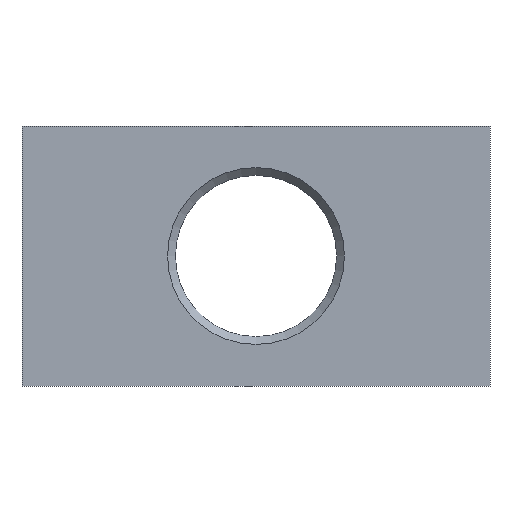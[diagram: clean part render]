
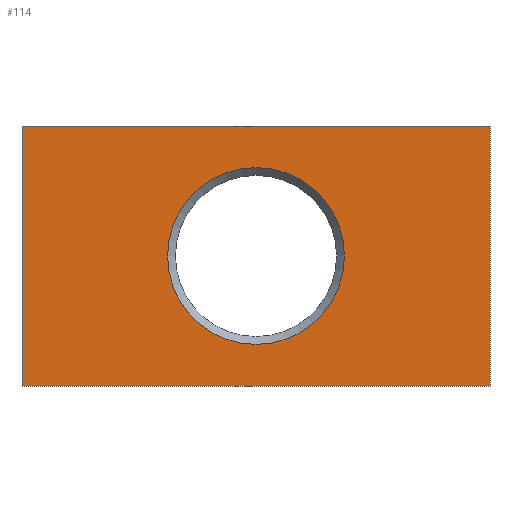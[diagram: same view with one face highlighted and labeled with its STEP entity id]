
A CAD part, front view. The second image highlights one B-rep face of the part: STEP entity #114.
In plain terms, the highlighted planar face has unit normal (0, -1, 0).
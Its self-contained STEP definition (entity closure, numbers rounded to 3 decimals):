
#99=FACE_BOUND('',#133,.T.);
#100=FACE_BOUND('',#134,.T.);
#109=CIRCLE('',#232,3.4);
#114=ADVANCED_FACE('',(#99,#100),#123,.T.);
#123=PLANE('',#233);
#133=EDGE_LOOP('',(#150));
#134=EDGE_LOOP('',(#151,#152,#153,#154));
#150=ORIENTED_EDGE('',*,*,#194,.F.);
#151=ORIENTED_EDGE('',*,*,#195,.T.);
#152=ORIENTED_EDGE('',*,*,#190,.T.);
#153=ORIENTED_EDGE('',*,*,#196,.F.);
#154=ORIENTED_EDGE('',*,*,#197,.T.);
#178=VERTEX_POINT('',#286);
#179=VERTEX_POINT('',#287);
#182=VERTEX_POINT('',#295);
#183=VERTEX_POINT('',#297);
#184=VERTEX_POINT('',#299);
#190=EDGE_CURVE('',#178,#179,#206,.T.);
#194=EDGE_CURVE('',#182,#182,#109,.T.);
#195=EDGE_CURVE('',#183,#178,#210,.T.);
#196=EDGE_CURVE('',#184,#179,#211,.T.);
#197=EDGE_CURVE('',#184,#183,#212,.T.);
#206=LINE('',#285,#218);
#210=LINE('',#296,#222);
#211=LINE('',#298,#223);
#212=LINE('',#300,#224);
#218=VECTOR('',#246,1.);
#222=VECTOR('',#254,1.);
#223=VECTOR('',#255,1.);
#224=VECTOR('',#256,1.);
#232=AXIS2_PLACEMENT_3D('',#294,#252,#253);
#233=AXIS2_PLACEMENT_3D('',#301,#257,#258);
#246=DIRECTION('',(-1.,0.,0.));
#252=DIRECTION('',(0.,-1.,0.));
#253=DIRECTION('',(0.,0.,-1.));
#254=DIRECTION('',(0.,0.,1.));
#255=DIRECTION('',(0.,0.,1.));
#256=DIRECTION('',(1.,0.,0.));
#257=DIRECTION('',(0.,-1.,0.));
#258=DIRECTION('',(0.,0.,-1.));
#285=CARTESIAN_POINT('',(9.,0.,10.));
#286=CARTESIAN_POINT('',(18.,0.,10.));
#287=CARTESIAN_POINT('',(0.,0.,10.));
#294=CARTESIAN_POINT('',(9.,0.,5.));
#295=CARTESIAN_POINT('',(9.,0.,1.6));
#296=CARTESIAN_POINT('',(18.,0.,0.));
#297=CARTESIAN_POINT('',(18.,0.,0.));
#298=CARTESIAN_POINT('',(0.,0.,0.));
#299=CARTESIAN_POINT('',(0.,0.,0.));
#300=CARTESIAN_POINT('',(9.,0.,0.));
#301=CARTESIAN_POINT('',(9.,0.,0.));
